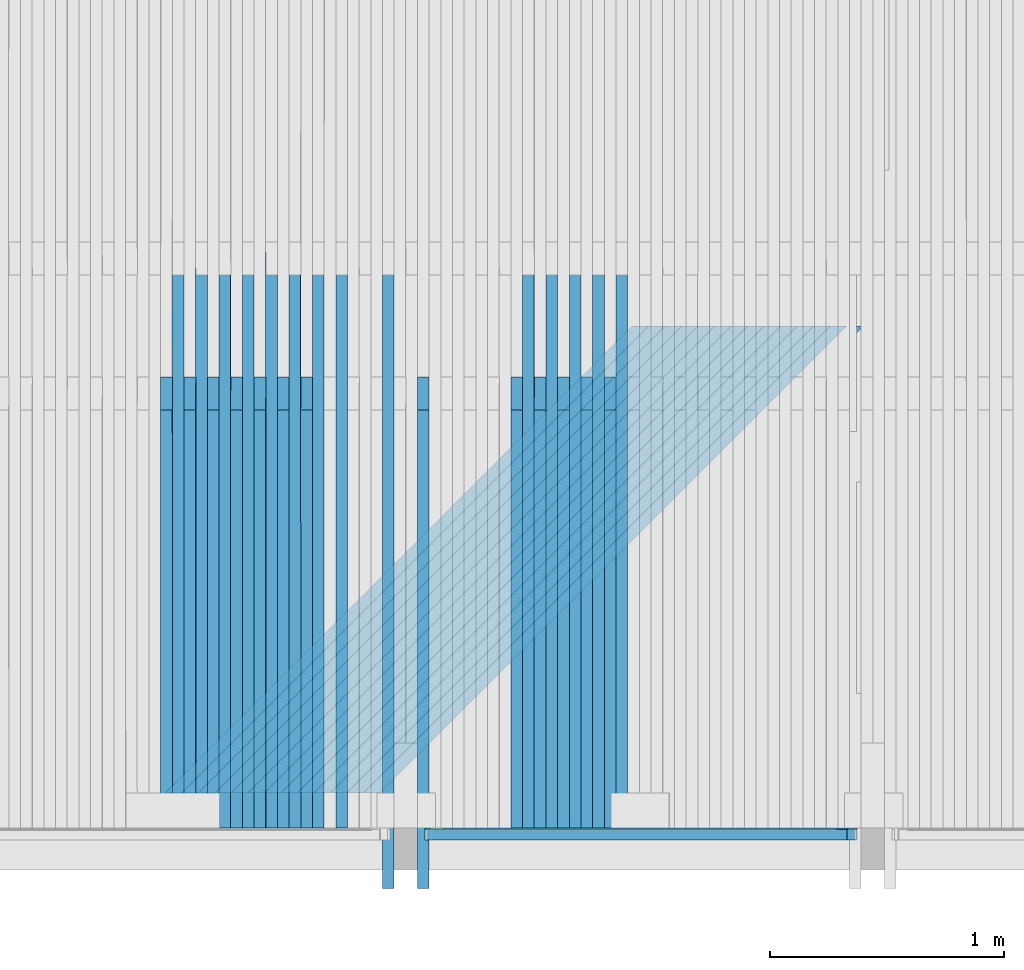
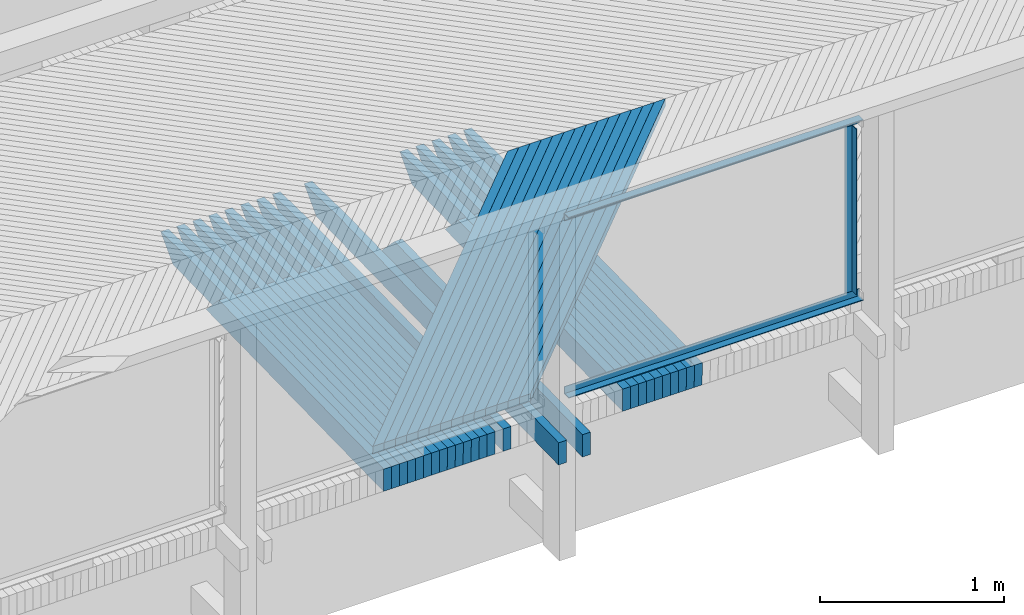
# One storey, part 23 of 65: 44 beams.
"""IFC2X3 building model written with IfcOpenShell, lengths in millimetres."""

from ifc_helpers import new_model, si_unit, frame, origin_with_axes, place, context, subcontext, project, spatial, faceted_brep, material, type_object, element, save


model = new_model("IFC2X3")

# Units and contexts
model_context = context("Model", 3, precision=1e-05, world=origin_with_axes())
body_context = subcontext(model_context, "Body", "Model", "MODEL_VIEW")
ifc_project = project(units=[si_unit("LENGTHUNIT", "METRE", prefix="MILLI"), si_unit("AREAUNIT", "SQUARE_METRE"), si_unit("VOLUMEUNIT", "CUBIC_METRE"), si_unit("MASSUNIT", "GRAM", prefix="KILO"), si_unit("TIMEUNIT", "SECOND"), si_unit("PLANEANGLEUNIT", "RADIAN"), si_unit("SOLIDANGLEUNIT", "STERADIAN"), si_unit("THERMODYNAMICTEMPERATUREUNIT", "DEGREE_CELSIUS"), si_unit("LUMINOUSINTENSITYUNIT", "LUMEN")], contexts=[model_context])

# Site, building, storey
site_placement = place(None, origin_with_axes())
site = spatial("IfcSite", under=ifc_project, at=site_placement, Name="Undefined", CompositionType="ELEMENT")
building_placement = place(site_placement, origin_with_axes())
building = spatial("IfcBuilding", under=site, at=building_placement, Name="Undefined", CompositionType="ELEMENT")
storey_placement = place(building_placement, origin_with_axes())
storey = spatial("IfcBuildingStorey", under=building, at=storey_placement, Name="Undefined", CompositionType="ELEMENT", Elevation=0.0)

# Beams
ifc_material_1 = material(Name="STEEL/S235JR")
beam_type_1 = type_object("IfcBeamType", Name="L50*5", PredefinedType="NOTDEFINED")
beam_1_placement = place(storey_placement, frame((7867.50249484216, 20190.01, 4416.23226331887), z_axis=(0.0, -1.0, 0.0), x_axis=(0.0, 0.0, -1.0)))
element("IfcBeam", 1, at=beam_1_placement, inside=storey, type_object=beam_type_1, material=ifc_material_1, Name="BEAM", ObjectType="L50*5", context=body_context, shape_type="Brep", body=[
    faceted_brep([(0.0, 25.0, -25.0), (0.0, 25.0, 25.0), (1100.00065383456, 25.0, 25.0), (1100.00065383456, 25.0, -25.0), (0.0, 20.0, 25.0), (1100.00065383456, 20.0, 25.0), (0.0, 20.0, -20.0), (1100.00065383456, 20.0, -20.0), (0.0, -25.0, -20.0), (1100.00065383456, -25.0, -20.0), (0.0, -25.0, -25.0), (1100.00065383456, -25.0, -25.0)], [[[0, 1, 2, 3]], [[1, 4, 5, 2]], [[4, 6, 7, 5]], [[6, 8, 9, 7]], [[8, 10, 11, 9]], [[10, 0, 3, 11]], [[5, 7, 9, 11, 3, 2]], [[10, 8, 6, 4, 1, 0]]]),
])
for number, where, z_axis, x_axis, name in (
    (2, (7931.95617713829, 20190.0099999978, 3291.29701897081), (0.0, -1.0, 0.0), (-0.999998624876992, 0.0, -0.00165838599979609), "BEAM"),
    (3, (6083.03750041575, 20190.0100000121, 4438.23148841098), (0.0, -1.0, 0.0), (0.999998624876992, 0.0, 0.00165838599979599), "BEAM"),
):
    element("IfcBeam", number, at=place(storey_placement, frame(where, z_axis=z_axis, x_axis=x_axis)), inside=storey, type_object=beam_type_1, material=ifc_material_1, Name=name, ObjectType="L50*5", context=body_context, shape_type="Brep", body=[
        faceted_brep([(0.0, 25.0, -25.0), (0.0, 25.0, 25.0), (1849.00413861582, 24.9999999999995, 25.0), (1849.00413861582, 24.9999999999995, -25.0), (0.0, 20.0, 25.0), (1849.00413861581, 20.0, 25.0), (0.0, 20.0, -20.0), (1849.00413861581, 20.0, -20.0), (0.0, -25.0, -20.0), (1849.00413861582, -25.0, -20.0), (0.0, -25.0, -25.0), (1849.00413861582, -25.0, -25.0)], [[[0, 1, 2, 3]], [[1, 4, 5, 2]], [[4, 6, 7, 5]], [[6, 8, 9, 7]], [[8, 10, 11, 9]], [[10, 0, 3, 11]], [[5, 7, 9, 11, 3, 2]], [[10, 8, 6, 4, 1, 0]]]),
    ])
ifc_material_2 = material(Name="TIMBER/Timber_Undefined")
beam_type_2 = type_object("IfcBeamType", Name="50*50", PredefinedType="NOTDEFINED")
for number, where, z_axis, x_axis, name in (
    (4, (7923.63385700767, 22364.5001003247, 3236.11721724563), (0.70711609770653, -0.706981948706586, -0.0127807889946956), (-0.707094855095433, -0.706948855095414, -0.0154978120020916), "BEAM"),
    (5, (7852.9096247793, 22364.5001003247, 3236.10409357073), (0.707117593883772, -0.706981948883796, -0.0126977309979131), (-0.707093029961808, -0.706948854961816, -0.0155808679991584), "BEAM"),
    (6, (7782.18539458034, 22364.5001003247, 3236.082662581), (0.707119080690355, -0.706981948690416, -0.0126146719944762), (-0.707091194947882, -0.706948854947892, -0.0156639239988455), "BEAM"),
    (7, (7711.46116738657, 22364.5001003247, 3236.0529242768), (0.707120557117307, -0.706981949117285, -0.012531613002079), (-0.707089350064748, -0.706948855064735, -0.0157469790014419), "BEAM"),
    (8, (7640.73694417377, 22364.5001003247, 3236.01487865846), (0.707122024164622, -0.706981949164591, -0.0124485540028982), (-0.707087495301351, -0.706948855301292, -0.0158300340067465), "BEAM"),
    (9, (7570.01272591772, 22364.5001003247, 3235.96852572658), (0.707123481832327, -0.706981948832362, -0.0123654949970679), (-0.70708563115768, -0.706948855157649, -0.0159130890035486), "BEAM"),
    (10, (7499.28851359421, 22364.5001003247, 3235.91386548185), (0.707124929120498, -0.706981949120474, -0.012282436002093), (-0.707083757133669, -0.706948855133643, -0.015996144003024), "BEAM"),
    (11, (7428.56430817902, 22364.5001003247, 3235.85089792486), (0.707126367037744, -0.706981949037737, -0.0121993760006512), (-0.707081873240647, -0.706948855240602, -0.0160791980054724), "BEAM"),
    (12, (7357.84011064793, 22364.5001003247, 3235.77962305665), (0.707127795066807, -0.706981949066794, -0.0121163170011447), (-0.70707997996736, -0.706948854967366, -0.0161622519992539), "BEAM"),
    (13, (7287.11592197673, 22364.5001003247, 3235.70004087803), (0.707129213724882, -0.706981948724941, -0.0120332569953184), (-0.707078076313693, -0.706948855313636, -0.0162453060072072), "BEAM"),
    (14, (7216.39174314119, 22364.5001003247, 3235.61215139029), (0.707130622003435, -0.706981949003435, -0.0119501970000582), (-0.707076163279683, -0.706948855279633, -0.0163283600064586), "BEAM"),
    (15, (7145.6675751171, 22364.5001003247, 3235.51595459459), (0.70713202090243, -0.706981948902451, -0.0118671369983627), (-0.707074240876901, -0.706948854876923, -0.0164114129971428), "BEAM"),
    (16, (7074.94341888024, 22364.5001003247, 3235.4114504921), (0.707133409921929, -0.706981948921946, -0.0117840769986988), (-0.707072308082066, -0.706948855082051, -0.0164944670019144), "BEAM"),
    (17, (7004.2192754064, 22364.5001003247, 3235.29863908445), (0.707134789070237, -0.706981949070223, -0.0117010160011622), (-0.707070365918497, -0.706948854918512, -0.0165775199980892), "BEAM"),
):
    element("IfcBeam", number, at=place(storey_placement, frame(where, z_axis=z_axis, x_axis=x_axis)), inside=storey, type_object=beam_type_2, material=ifc_material_2, Name=name, ObjectType="50*50", context=body_context, shape_type="Brep", body=[
        faceted_brep([(24.8942457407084, 25.0000000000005, -25.0000000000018), (-25.0086637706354, 24.9999999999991, 25.0), (2804.3406783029, 25.0, 25.0000000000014), (2854.34301907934, 24.9999999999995, -25.0), (-26.4222658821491, -25.0000000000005, 25.0), (2802.92643296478, -25.0, 25.0000000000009), (23.4806436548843, -24.9999999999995, -25.0000000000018), (2852.92877373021, -25.0000000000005, -24.9999999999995)], [[[0, 1, 2, 3]], [[1, 4, 5, 2]], [[4, 6, 7, 5]], [[6, 0, 3, 7]], [[5, 7, 3, 2]], [[6, 4, 1, 0]]]),
    ])
beam_type_3 = type_object("IfcBeamType", Name="150*50", PredefinedType="NOTDEFINED")
beam_2_placement = place(storey_placement, frame((6875.55134106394, 20216.5046076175, 3092.09976390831), z_axis=(-0.00194896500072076, -0.0199960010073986, 0.999798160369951), x_axis=(-3.89800000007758e-05, 0.999800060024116, 0.0199959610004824)))
element("IfcBeam", 18, at=beam_2_placement, inside=storey, type_object=beam_type_3, material=ifc_material_2, Name="BEAM", ObjectType="150*50", context=body_context, shape_type="Brep", body=[
    faceted_brep([(-1.6778358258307e-07, -24.9999999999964, -74.9999999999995), (1.67790858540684e-07, -24.9999999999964, 75.0000000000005), (1.67790858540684e-07, 25.0000000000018, 74.9999999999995), (-1.6778358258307e-07, 25.0000000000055, -75.0), (1928.42646353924, -25.0, -75.0000000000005), (1789.96936433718, -25.0000000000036, 74.9999999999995), (1789.96936408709, 24.9999999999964, 75.0), (1928.42646328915, 24.9999999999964, -75.0)], [[[0, 1, 2, 3]], [[1, 0, 4, 5]], [[2, 1, 5, 6]], [[3, 2, 6, 7]], [[0, 3, 7, 4]], [[7, 6, 5, 4]]]),
])
beam_3_placement = place(storey_placement, frame((6925.57129448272, 20216.5046076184, 3092.18896139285), z_axis=(-0.0017828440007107, -0.0199960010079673, 0.999798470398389), x_axis=(-3.56580000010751e-05, 0.999800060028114, 0.0199959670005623)))
element("IfcBeam", 19, at=beam_3_placement, inside=storey, type_object=beam_type_3, material=ifc_material_2, Name="BEAM", ObjectType="150*50", context=body_context, shape_type="Brep", body=[
    faceted_brep([(-1.6778358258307e-07, -24.9999999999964, -74.9999999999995), (1.67790858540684e-07, -24.9999999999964, 75.0000000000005), (1.67790858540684e-07, 25.0000000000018, 74.9999999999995), (-1.6778358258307e-07, 25.0000000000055, -75.0), (2375.00494422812, 25.0000000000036, -75.0), (2375.00494447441, -24.9999999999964, -74.9999999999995), (2510.59248714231, -24.9999999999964, 60.5875430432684), (2150.42514405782, -24.9999999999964, 75.0000000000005), (2150.42515052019, 25.0000000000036, 74.9999999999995), (2510.59248715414, 25.0000000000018, 60.5875433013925)], [[[0, 1, 2, 3]], [[0, 3, 4, 5]], [[1, 0, 5, 6, 7]], [[2, 1, 7, 8]], [[4, 3, 2, 8, 9]], [[5, 4, 9, 6]], [[6, 9, 8, 7]]]),
])
beam_4_placement = place(storey_placement, frame((6775.53149770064, 20216.5046076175, 3091.90462133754), z_axis=(-0.0021150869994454, -0.0199960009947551, 0.999797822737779), x_axis=(-4.23030000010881e-05, 0.999800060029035, 0.0199959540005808)))
element("IfcBeam", 20, at=beam_4_placement, inside=storey, type_object=beam_type_3, material=ifc_material_2, Name="BEAM", ObjectType="150*50", context=body_context, shape_type="Brep", body=[
    faceted_brep([(-1.6778358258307e-07, -24.9999999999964, -74.9999999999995), (1.67790858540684e-07, -24.9999999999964, 75.0000000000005), (1.67790858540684e-07, 25.0000000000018, 74.9999999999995), (-1.6778358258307e-07, 25.0000000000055, -75.0), (1928.42646353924, -25.0, -75.0000000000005), (1789.96936433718, -25.0000000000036, 74.9999999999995), (1789.96936408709, 24.9999999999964, 75.0), (1928.42646328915, 24.9999999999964, -75.0)], [[[0, 1, 2, 3]], [[1, 0, 4, 5]], [[2, 1, 5, 6]], [[3, 2, 6, 7]], [[0, 3, 7, 4]], [[7, 6, 5, 4]]]),
])
beam_5_placement = place(storey_placement, frame((6825.55143560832, 20216.5046076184, 3092.0021299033), z_axis=(-0.00194896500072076, -0.0199960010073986, 0.999798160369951), x_axis=(-3.89800000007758e-05, 0.999800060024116, 0.0199959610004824)))
element("IfcBeam", 21, at=beam_5_placement, inside=storey, type_object=beam_type_3, material=ifc_material_2, Name="BEAM", ObjectType="150*50", context=body_context, shape_type="Brep", body=[
    faceted_brep([(-1.6778358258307e-07, -24.9999999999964, -74.9999999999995), (1.67790858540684e-07, -24.9999999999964, 75.0000000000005), (1.67790858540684e-07, 25.0000000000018, 74.9999999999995), (-1.6778358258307e-07, 25.0000000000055, -75.0), (2375.00494422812, 25.0000000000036, -75.0), (2375.00494447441, -24.9999999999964, -74.9999999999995), (2510.59248714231, -24.9999999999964, 60.5875430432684), (2150.42514405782, -24.9999999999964, 75.0000000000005), (2150.42515052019, 25.0000000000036, 74.9999999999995), (2510.59248715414, 25.0000000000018, 60.5875433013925)], [[[0, 1, 2, 3]], [[0, 3, 4, 5]], [[1, 0, 5, 6, 7]], [[2, 1, 7, 8]], [[4, 3, 2, 8, 9]], [[5, 4, 9, 6]], [[6, 9, 8, 7]]]),
])
beam_6_placement = place(storey_placement, frame((6675.51168814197, 20216.5046076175, 3091.6928599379), z_axis=(-0.00228120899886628, -0.019996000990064, 0.999797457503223), x_axis=(-4.5625000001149e-05, 0.99980006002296, 0.0199959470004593)))
element("IfcBeam", 22, at=beam_6_placement, inside=storey, type_object=beam_type_3, material=ifc_material_2, Name="BEAM", ObjectType="150*50", context=body_context, shape_type="Brep", body=[
    faceted_brep([(-1.6778358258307e-07, -24.9999999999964, -74.9999999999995), (1.67790858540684e-07, -24.9999999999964, 75.0000000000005), (1.67790858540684e-07, 25.0000000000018, 74.9999999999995), (-1.6778358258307e-07, 25.0000000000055, -75.0), (1928.42646353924, -25.0, -75.0000000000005), (1789.96936433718, -25.0000000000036, 74.9999999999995), (1789.96936408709, 24.9999999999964, 75.0), (1928.42646328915, 24.9999999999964, -75.0)], [[[0, 1, 2, 3]], [[1, 0, 4, 5]], [[2, 1, 5, 6]], [[3, 2, 6, 7]], [[0, 3, 7, 4]], [[7, 6, 5, 4]]]),
])
beam_7_placement = place(storey_placement, frame((6725.53160915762, 20216.5046076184, 3091.79867958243), z_axis=(-0.0021150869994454, -0.0199960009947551, 0.999797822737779), x_axis=(-4.23030000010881e-05, 0.999800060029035, 0.0199959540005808)))
element("IfcBeam", 23, at=beam_7_placement, inside=storey, type_object=beam_type_3, material=ifc_material_2, Name="BEAM", ObjectType="150*50", context=body_context, shape_type="Brep", body=[
    faceted_brep([(-1.6778358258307e-07, -24.9999999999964, -74.9999999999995), (1.67790858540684e-07, -24.9999999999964, 75.0000000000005), (1.67790858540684e-07, 25.0000000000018, 74.9999999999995), (-1.6778358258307e-07, 25.0000000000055, -75.0), (2375.00494422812, 25.0000000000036, -75.0), (2375.00494447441, -24.9999999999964, -74.9999999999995), (2510.59248714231, -24.9999999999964, 60.5875430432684), (2150.42514405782, -24.9999999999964, 75.0000000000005), (2150.42515052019, 25.0000000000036, 74.9999999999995), (2510.59248715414, 25.0000000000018, 60.5875433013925)], [[[0, 1, 2, 3]], [[0, 3, 4, 5]], [[1, 0, 5, 6, 7]], [[2, 1, 7, 8]], [[4, 3, 2, 8, 9]], [[5, 4, 9, 6]], [[6, 9, 8, 7]]]),
])
beam_8_placement = place(storey_placement, frame((6575.49191514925, 20216.5046076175, 3091.46447971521), z_axis=(-0.00244733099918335, -0.0199960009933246, 0.999797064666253), x_axis=(-4.89470000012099e-05, 0.999800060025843, 0.0199959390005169)))
element("IfcBeam", 24, at=beam_8_placement, inside=storey, type_object=beam_type_3, material=ifc_material_2, Name="BEAM", ObjectType="150*50", context=body_context, shape_type="Brep", body=[
    faceted_brep([(-1.6778358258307e-07, -24.9999999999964, -74.9999999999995), (1.67790858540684e-07, -24.9999999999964, 75.0000000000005), (1.67790858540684e-07, 25.0000000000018, 74.9999999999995), (-1.6778358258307e-07, 25.0000000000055, -75.0), (1928.42646353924, -25.0, -75.0000000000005), (1789.96936433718, -25.0000000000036, 74.9999999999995), (1789.96936408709, 24.9999999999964, 75.0), (1928.42646328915, 24.9999999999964, -75.0)], [[[0, 1, 2, 3]], [[1, 0, 4, 5]], [[2, 1, 5, 6]], [[3, 2, 6, 7]], [[0, 3, 7, 4]], [[7, 6, 5, 4]]]),
])
beam_9_placement = place(storey_placement, frame((6625.51181789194, 20216.5046076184, 3091.57861043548), z_axis=(-0.00228120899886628, -0.019996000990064, 0.999797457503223), x_axis=(-4.5625000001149e-05, 0.99980006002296, 0.0199959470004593)))
element("IfcBeam", 25, at=beam_9_placement, inside=storey, type_object=beam_type_3, material=ifc_material_2, Name="BEAM", ObjectType="150*50", context=body_context, shape_type="Brep", body=[
    faceted_brep([(-1.6778358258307e-07, -24.9999999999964, -74.9999999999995), (1.67790858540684e-07, -24.9999999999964, 75.0000000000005), (1.67790858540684e-07, 25.0000000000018, 74.9999999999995), (-1.6778358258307e-07, 25.0000000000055, -75.0), (2375.00494422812, 25.0000000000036, -75.0), (2375.00494447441, -24.9999999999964, -74.9999999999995), (2510.59248714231, -24.9999999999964, 60.5875430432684), (2150.42514405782, -24.9999999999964, 75.0000000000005), (2150.42515052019, 25.0000000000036, 74.9999999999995), (2510.59248715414, 25.0000000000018, 60.5875433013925)], [[[0, 1, 2, 3]], [[0, 3, 4, 5]], [[1, 0, 5, 6, 7]], [[2, 1, 7, 8]], [[4, 3, 2, 8, 9]], [[5, 4, 9, 6]], [[6, 9, 8, 7]]]),
])
beam_10_placement = place(storey_placement, frame((6475.47218148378, 20216.5046076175, 3091.21948067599), z_axis=(-0.00261345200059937, -0.0199960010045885, 0.999796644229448), x_axis=(-5.22700000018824e-05, 0.999800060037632, 0.0199959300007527)))
element("IfcBeam", 26, at=beam_10_placement, inside=storey, type_object=beam_type_3, material=ifc_material_2, Name="BEAM", ObjectType="150*50", context=body_context, shape_type="Brep", body=[
    faceted_brep([(-1.6778358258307e-07, -24.9999999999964, -74.9999999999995), (1.67790858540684e-07, -24.9999999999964, 75.0000000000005), (1.67790858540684e-07, 25.0000000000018, 74.9999999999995), (-1.6778358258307e-07, 25.0000000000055, -75.0), (1928.42646353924, -25.0, -75.0000000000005), (1789.96936433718, -25.0000000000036, 74.9999999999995), (1789.96936408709, 24.9999999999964, 75.0), (1928.42646328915, 24.9999999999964, -75.0)], [[[0, 1, 2, 3]], [[1, 0, 4, 5]], [[2, 1, 5, 6]], [[3, 2, 6, 7]], [[0, 3, 7, 4]], [[7, 6, 5, 4]]]),
])
for number, where, z_axis, x_axis, name in (
    (27, (6525.49206457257, 20216.5046076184, 3091.34192246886), (-0.00244733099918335, -0.0199960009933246, 0.999797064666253), (-4.89470000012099e-05, 0.999800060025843, 0.0199959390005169), "BEAM"),
    (28, (5725.9357353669, 20216.5046076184, 3088.8504411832), (-0.00377630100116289, -0.0199960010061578, 0.999792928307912), (-7.55270000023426e-05, 0.999800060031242, 0.0199958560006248), "BEAM"),
):
    element("IfcBeam", number, at=place(storey_placement, frame(where, z_axis=z_axis, x_axis=x_axis)), inside=storey, type_object=beam_type_3, material=ifc_material_2, Name=name, ObjectType="150*50", context=body_context, shape_type="Brep", body=[
        faceted_brep([(-1.6778358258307e-07, -24.9999999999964, -74.9999999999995), (1.67790858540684e-07, -24.9999999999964, 75.0000000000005), (1.67790858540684e-07, 25.0000000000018, 74.9999999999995), (-1.6778358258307e-07, 25.0000000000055, -75.0), (2375.00494422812, 25.0000000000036, -75.0), (2375.00494447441, -24.9999999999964, -74.9999999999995), (2510.59248714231, -24.9999999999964, 60.5875430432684), (2150.42514405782, -24.9999999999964, 75.0000000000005), (2150.42515052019, 25.0000000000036, 74.9999999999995), (2510.59248715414, 25.0000000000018, 60.5875433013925)], [[[0, 1, 2, 3]], [[0, 3, 4, 5]], [[1, 0, 5, 6, 7]], [[2, 1, 7, 8]], [[4, 3, 2, 8, 9]], [[5, 4, 9, 6]], [[6, 9, 8, 7]]]),
    ])
beam_11_placement = place(storey_placement, frame((5575.89680370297, 20216.5046076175, 3088.2670426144), z_axis=(-0.00410854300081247, -0.0199960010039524, 0.999791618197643), x_axis=(-8.21720000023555e-05, 0.99980006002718, 0.0199958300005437)))
element("IfcBeam", 29, at=beam_11_placement, inside=storey, type_object=beam_type_3, material=ifc_material_2, Name="BEAM", ObjectType="150*50", context=body_context, shape_type="Brep", body=[
    faceted_brep([(-1.6778358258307e-07, -24.9999999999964, -74.9999999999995), (1.67790858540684e-07, -24.9999999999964, 75.0000000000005), (1.67790858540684e-07, 25.0000000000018, 74.9999999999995), (-1.6778358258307e-07, 25.0000000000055, -75.0), (1928.42646353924, -25.0, -75.0000000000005), (1789.96936433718, -25.0000000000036, 74.9999999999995), (1789.96936408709, 24.9999999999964, 75.0), (1928.42646328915, 24.9999999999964, -75.0)], [[[0, 1, 2, 3]], [[1, 0, 4, 5]], [[2, 1, 5, 6]], [[3, 2, 6, 7]], [[0, 3, 7, 4]], [[7, 6, 5, 4]]]),
])
beam_12_placement = place(storey_placement, frame((5625.916447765, 20216.5046076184, 3088.46428388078), z_axis=(-0.00394242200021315, -0.0199960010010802, 0.999792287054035), x_axis=(-7.88490000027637e-05, 0.999800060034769, 0.0199958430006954)))
element("IfcBeam", 30, at=beam_12_placement, inside=storey, type_object=beam_type_3, material=ifc_material_2, Name="BEAM", ObjectType="150*50", context=body_context, shape_type="Brep", body=[
    faceted_brep([(-1.6778358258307e-07, -24.9999999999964, -74.9999999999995), (1.67790858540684e-07, -24.9999999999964, 75.0000000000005), (1.67790858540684e-07, 25.0000000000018, 74.9999999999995), (-1.6778358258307e-07, 25.0000000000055, -75.0), (2375.00494422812, 25.0000000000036, -75.0), (2375.00494447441, -24.9999999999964, -74.9999999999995), (2510.59248714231, -24.9999999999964, 60.5875430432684), (2150.42514405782, -24.9999999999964, 75.0000000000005), (2150.42515052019, 25.0000000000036, 74.9999999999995), (2510.59248715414, 25.0000000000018, 60.5875433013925)], [[[0, 1, 2, 3]], [[0, 3, 4, 5]], [[1, 0, 5, 6, 7]], [[2, 1, 7, 8]], [[4, 3, 2, 8, 9]], [[5, 4, 9, 6]], [[6, 9, 8, 7]]]),
])
beam_13_placement = place(storey_placement, frame((5475.87761510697, 20216.5046076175, 3087.85595554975), z_axis=(-0.00427466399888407, -0.0199960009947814, 0.999790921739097), x_axis=(-8.54940000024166e-05, 0.999800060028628, 0.0199958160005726)))
element("IfcBeam", 31, at=beam_13_placement, inside=storey, type_object=beam_type_3, material=ifc_material_2, Name="BEAM", ObjectType="150*50", context=body_context, shape_type="Brep", body=[
    faceted_brep([(-1.6778358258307e-07, -24.9999999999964, -74.9999999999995), (1.67790858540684e-07, -24.9999999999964, 75.0000000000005), (1.67790858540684e-07, 25.0000000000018, 74.9999999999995), (-1.6778358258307e-07, 25.0000000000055, -75.0), (1928.42646353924, -25.0, -75.0000000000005), (1789.96936433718, -25.0000000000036, 74.9999999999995), (1789.96936408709, 24.9999999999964, 75.0), (1928.42646328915, 24.9999999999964, -75.0)], [[[0, 1, 2, 3]], [[1, 0, 4, 5]], [[2, 1, 5, 6]], [[3, 2, 6, 7]], [[0, 3, 7, 4]], [[7, 6, 5, 4]]]),
])
beam_14_placement = place(storey_placement, frame((5525.89722570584, 20216.5046076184, 3088.06150784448), z_axis=(-0.00410854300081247, -0.0199960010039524, 0.999791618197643), x_axis=(-8.21720000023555e-05, 0.99980006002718, 0.0199958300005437)))
element("IfcBeam", 32, at=beam_14_placement, inside=storey, type_object=beam_type_3, material=ifc_material_2, Name="BEAM", ObjectType="150*50", context=body_context, shape_type="Brep", body=[
    faceted_brep([(-1.6778358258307e-07, -24.9999999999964, -74.9999999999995), (1.67790858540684e-07, -24.9999999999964, 75.0000000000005), (1.67790858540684e-07, 25.0000000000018, 74.9999999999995), (-1.6778358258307e-07, 25.0000000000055, -75.0), (2375.00494422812, 25.0000000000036, -75.0), (2375.00494447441, -24.9999999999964, -74.9999999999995), (2510.59248714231, -24.9999999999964, 60.5875430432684), (2150.42514405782, -24.9999999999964, 75.0000000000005), (2150.42515052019, 25.0000000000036, 74.9999999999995), (2510.59248715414, 25.0000000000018, 60.5875433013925)], [[[0, 1, 2, 3]], [[0, 3, 4, 5]], [[1, 0, 5, 6, 7]], [[2, 1, 7, 8]], [[4, 3, 2, 8, 9]], [[5, 4, 9, 6]], [[6, 9, 8, 7]]]),
])
beam_15_placement = place(storey_placement, frame((5375.85849619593, 20216.5046076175, 3087.42824976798), z_axis=(-0.0044407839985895, -0.0199960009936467, 0.999790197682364), x_axis=(-8.88170000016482e-05, 0.999800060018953, 0.0199958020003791)))
element("IfcBeam", 33, at=beam_15_placement, inside=storey, type_object=beam_type_3, material=ifc_material_2, Name="BEAM", ObjectType="150*50", context=body_context, shape_type="Brep", body=[
    faceted_brep([(-1.6778358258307e-07, -24.9999999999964, -74.9999999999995), (1.67790858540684e-07, -24.9999999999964, 75.0000000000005), (1.67790858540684e-07, 25.0000000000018, 74.9999999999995), (-1.6778358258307e-07, 25.0000000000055, -75.0), (1928.42646353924, -25.0, -75.0000000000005), (1789.96936433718, -25.0000000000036, 74.9999999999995), (1789.96936408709, 24.9999999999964, 75.0), (1928.42646328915, 24.9999999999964, -75.0)], [[[0, 1, 2, 3]], [[1, 0, 4, 5]], [[2, 1, 5, 6]], [[3, 2, 6, 7]], [[0, 3, 7, 4]], [[7, 6, 5, 4]]]),
])
beam_16_placement = place(storey_placement, frame((5425.87807195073, 20216.5046076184, 3087.6421130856), z_axis=(-0.00427466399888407, -0.0199960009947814, 0.999790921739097), x_axis=(-8.54940000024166e-05, 0.999800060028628, 0.0199958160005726)))
element("IfcBeam", 34, at=beam_16_placement, inside=storey, type_object=beam_type_3, material=ifc_material_2, Name="BEAM", ObjectType="150*50", context=body_context, shape_type="Brep", body=[
    faceted_brep([(-1.6778358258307e-07, -24.9999999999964, -74.9999999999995), (1.67790858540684e-07, -24.9999999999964, 75.0000000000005), (1.67790858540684e-07, 25.0000000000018, 74.9999999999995), (-1.6778358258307e-07, 25.0000000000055, -75.0), (2375.00494422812, 25.0000000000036, -75.0), (2375.00494447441, -24.9999999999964, -74.9999999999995), (2510.59248714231, -24.9999999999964, 60.5875430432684), (2150.42514405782, -24.9999999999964, 75.0000000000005), (2150.42515052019, 25.0000000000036, 74.9999999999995), (2510.59248715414, 25.0000000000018, 60.5875433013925)], [[[0, 1, 2, 3]], [[0, 3, 4, 5]], [[1, 0, 5, 6, 7]], [[2, 1, 7, 8]], [[4, 3, 2, 8, 9]], [[5, 4, 9, 6]], [[6, 9, 8, 7]]]),
])
beam_17_placement = place(storey_placement, frame((5275.83944973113, 20216.5046076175, 3086.98392528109), z_axis=(-0.00460690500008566, -0.0199960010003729, 0.999789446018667), x_axis=(-9.21390000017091e-05, 0.999800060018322, 0.0199957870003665)))
element("IfcBeam", 35, at=beam_17_placement, inside=storey, type_object=beam_type_3, material=ifc_material_2, Name="BEAM", ObjectType="150*50", context=body_context, shape_type="Brep", body=[
    faceted_brep([(-1.6778358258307e-07, -24.9999999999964, -74.9999999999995), (1.67790858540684e-07, -24.9999999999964, 75.0000000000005), (1.67790858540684e-07, 25.0000000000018, 74.9999999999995), (-1.6778358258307e-07, 25.0000000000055, -75.0), (1928.42646353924, -25.0, -75.0000000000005), (1789.96936433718, -25.0000000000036, 74.9999999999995), (1789.96936408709, 24.9999999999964, 75.0), (1928.42646328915, 24.9999999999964, -75.0)], [[[0, 1, 2, 3]], [[1, 0, 4, 5]], [[2, 1, 5, 6]], [[3, 2, 6, 7]], [[0, 3, 7, 4]], [[7, 6, 5, 4]]]),
])
beam_18_placement = place(storey_placement, frame((5325.85898926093, 20216.5046076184, 3087.20609961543), z_axis=(-0.0044407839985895, -0.0199960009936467, 0.999790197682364), x_axis=(-8.88170000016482e-05, 0.999800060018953, 0.0199958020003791)))
element("IfcBeam", 36, at=beam_18_placement, inside=storey, type_object=beam_type_3, material=ifc_material_2, Name="BEAM", ObjectType="150*50", context=body_context, shape_type="Brep", body=[
    faceted_brep([(-1.6778358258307e-07, -24.9999999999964, -74.9999999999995), (1.67790858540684e-07, -24.9999999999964, 75.0000000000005), (1.67790858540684e-07, 25.0000000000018, 74.9999999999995), (-1.6778358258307e-07, 25.0000000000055, -75.0), (2375.00494422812, 25.0000000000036, -75.0), (2375.00494447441, -24.9999999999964, -74.9999999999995), (2510.59248714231, -24.9999999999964, 60.5875430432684), (2150.42514405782, -24.9999999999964, 75.0000000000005), (2150.42515052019, 25.0000000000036, 74.9999999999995), (2510.59248715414, 25.0000000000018, 60.5875433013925)], [[[0, 1, 2, 3]], [[0, 3, 4, 5]], [[1, 0, 5, 6, 7]], [[2, 1, 7, 8]], [[4, 3, 2, 8, 9]], [[5, 4, 9, 6]], [[6, 9, 8, 7]]]),
])
beam_19_placement = place(storey_placement, frame((5175.82047847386, 20216.5046076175, 3086.52298210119), z_axis=(-0.00477302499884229, -0.0199960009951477, 0.999788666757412), x_axis=(-9.54610000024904e-05, 0.999800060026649, 0.019995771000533)))
element("IfcBeam", 37, at=beam_19_placement, inside=storey, type_object=beam_type_3, material=ifc_material_2, Name="BEAM", ObjectType="150*50", context=body_context, shape_type="Brep", body=[
    faceted_brep([(-1.6778358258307e-07, -24.9999999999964, -74.9999999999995), (1.67790858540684e-07, -24.9999999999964, 75.0000000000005), (1.67790858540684e-07, 25.0000000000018, 74.9999999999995), (-1.6778358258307e-07, 25.0000000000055, -75.0), (1928.42646353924, -25.0, -75.0000000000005), (1789.96936433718, -25.0000000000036, 74.9999999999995), (1789.96936408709, 24.9999999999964, 75.0), (1928.42646328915, 24.9999999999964, -75.0)], [[[0, 1, 2, 3]], [[1, 0, 4, 5]], [[2, 1, 5, 6]], [[3, 2, 6, 7]], [[0, 3, 7, 4]], [[7, 6, 5, 4]]]),
])
beam_20_placement = place(storey_placement, frame((5225.83998039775, 20216.5046076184, 3086.75346744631), z_axis=(-0.00460690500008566, -0.0199960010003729, 0.999789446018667), x_axis=(-9.21390000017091e-05, 0.999800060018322, 0.0199957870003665)))
element("IfcBeam", 38, at=beam_20_placement, inside=storey, type_object=beam_type_3, material=ifc_material_2, Name="BEAM", ObjectType="150*50", context=body_context, shape_type="Brep", body=[
    faceted_brep([(-1.6778358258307e-07, -24.9999999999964, -74.9999999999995), (1.67790858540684e-07, -24.9999999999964, 75.0000000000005), (1.67790858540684e-07, 25.0000000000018, 74.9999999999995), (-1.6778358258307e-07, 25.0000000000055, -75.0), (2375.00494422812, 25.0000000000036, -75.0), (2375.00494447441, -24.9999999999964, -74.9999999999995), (2510.59248714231, -24.9999999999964, 60.5875430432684), (2150.42514405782, -24.9999999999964, 75.0000000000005), (2150.42515052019, 25.0000000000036, 74.9999999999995), (2510.59248715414, 25.0000000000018, 60.5875433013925)], [[[0, 1, 2, 3]], [[0, 3, 4, 5]], [[1, 0, 5, 6, 7]], [[2, 1, 7, 8]], [[4, 3, 2, 8, 9]], [[5, 4, 9, 6]], [[6, 9, 8, 7]]]),
])
beam_21_placement = place(storey_placement, frame((5075.8015851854, 20216.5046076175, 3086.04542024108), z_axis=(-0.004939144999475, -0.0199960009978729, 0.999787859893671), x_axis=(-9.87840000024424e-05, 0.999800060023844, 0.0199957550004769)))
element("IfcBeam", 39, at=beam_21_placement, inside=storey, type_object=beam_type_3, material=ifc_material_2, Name="BEAM", ObjectType="150*50", context=body_context, shape_type="Brep", body=[
    faceted_brep([(-1.6778358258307e-07, -24.9999999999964, -74.9999999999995), (1.67790858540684e-07, -24.9999999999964, 75.0000000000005), (1.67790858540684e-07, 25.0000000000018, 74.9999999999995), (-1.6778358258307e-07, 25.0000000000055, -75.0), (1928.42646353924, -25.0, -75.0000000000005), (1789.96936433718, -25.0000000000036, 74.9999999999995), (1789.96936408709, 24.9999999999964, 75.0), (1928.42646328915, 24.9999999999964, -75.0)], [[[0, 1, 2, 3]], [[1, 0, 4, 5]], [[2, 1, 5, 6]], [[3, 2, 6, 7]], [[0, 3, 7, 4]], [[7, 6, 5, 4]]]),
])
beam_22_placement = place(storey_placement, frame((5125.82104812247, 20216.5046076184, 3086.28421659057), z_axis=(-0.00477302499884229, -0.0199960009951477, 0.999788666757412), x_axis=(-9.54610000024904e-05, 0.999800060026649, 0.019995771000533)))
element("IfcBeam", 40, at=beam_22_placement, inside=storey, type_object=beam_type_3, material=ifc_material_2, Name="BEAM", ObjectType="150*50", context=body_context, shape_type="Brep", body=[
    faceted_brep([(-1.6778358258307e-07, -24.9999999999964, -74.9999999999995), (1.67790858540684e-07, -24.9999999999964, 75.0000000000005), (1.67790858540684e-07, 25.0000000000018, 74.9999999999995), (-1.6778358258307e-07, 25.0000000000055, -75.0), (2375.00494422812, 25.0000000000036, -75.0), (2375.00494447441, -24.9999999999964, -74.9999999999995), (2510.59248714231, -24.9999999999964, 60.5875430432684), (2150.42514405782, -24.9999999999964, 75.0000000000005), (2150.42515052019, 25.0000000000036, 74.9999999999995), (2510.59248715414, 25.0000000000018, 60.5875433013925)], [[[0, 1, 2, 3]], [[0, 3, 4, 5]], [[1, 0, 5, 6, 7]], [[2, 1, 7, 8]], [[4, 3, 2, 8, 9]], [[5, 4, 9, 6]], [[6, 9, 8, 7]]]),
])
beam_23_placement = place(storey_placement, frame((4975.78277262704, 20216.5046076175, 3085.55123971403), z_axis=(-0.00510526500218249, -0.0199960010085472, 0.999787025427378), x_axis=(-0.000102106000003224, 0.999800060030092, 0.0199957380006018)))
element("IfcBeam", 41, at=beam_23_placement, inside=storey, type_object=beam_type_3, material=ifc_material_2, Name="BEAM", ObjectType="150*50", context=body_context, shape_type="Brep", body=[
    faceted_brep([(-1.6778358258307e-07, -24.9999999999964, -74.9999999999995), (1.67790858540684e-07, -24.9999999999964, 75.0000000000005), (1.67790858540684e-07, 25.0000000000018, 74.9999999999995), (-1.6778358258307e-07, 25.0000000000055, -75.0), (1928.42646353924, -25.0, -75.0000000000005), (1789.96936433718, -25.0000000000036, 74.9999999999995), (1789.96936408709, 24.9999999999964, 75.0), (1928.42646328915, 24.9999999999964, -75.0)], [[[0, 1, 2, 3]], [[1, 0, 4, 5]], [[2, 1, 5, 6]], [[3, 2, 6, 7]], [[0, 3, 7, 4]], [[7, 6, 5, 4]]]),
])
beam_24_placement = place(storey_placement, frame((5025.80219519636, 20216.5046076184, 3085.79834706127), z_axis=(-0.004939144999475, -0.0199960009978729, 0.999787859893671), x_axis=(-9.87840000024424e-05, 0.999800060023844, 0.0199957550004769)))
element("IfcBeam", 42, at=beam_24_placement, inside=storey, type_object=beam_type_3, material=ifc_material_2, Name="BEAM", ObjectType="150*50", context=body_context, shape_type="Brep", body=[
    faceted_brep([(-1.6778358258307e-07, -24.9999999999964, -74.9999999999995), (1.67790858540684e-07, -24.9999999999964, 75.0000000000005), (1.67790858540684e-07, 25.0000000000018, 74.9999999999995), (-1.6778358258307e-07, 25.0000000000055, -75.0), (2375.00494422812, 25.0000000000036, -75.0), (2375.00494447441, -24.9999999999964, -74.9999999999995), (2510.59248714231, -24.9999999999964, 60.5875430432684), (2150.42514405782, -24.9999999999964, 75.0000000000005), (2150.42515052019, 25.0000000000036, 74.9999999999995), (2510.59248715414, 25.0000000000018, 60.5875433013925)], [[[0, 1, 2, 3]], [[0, 3, 4, 5]], [[1, 0, 5, 6, 7]], [[2, 1, 7, 8]], [[4, 3, 2, 8, 9]], [[5, 4, 9, 6]], [[6, 9, 8, 7]]]),
])
beam_25_placement = place(storey_placement, frame((6075.29628164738, 19958.5561921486, 3084.91318587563), z_axis=(-0.00327793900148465, -0.0199960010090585, 0.999794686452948), x_axis=(-6.55590000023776e-05, 0.999800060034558, 0.0199958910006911)))
element("IfcBeam", 43, at=beam_25_placement, inside=storey, type_object=beam_type_3, material=ifc_material_2, Name="BEAM", ObjectType="150*50", context=body_context, shape_type="Brep", body=[
    faceted_brep([(-1.6778358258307e-07, -24.9999999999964, -74.9999999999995), (1.67790858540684e-07, -24.9999999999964, 75.0000000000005), (1.67790858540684e-07, 25.0000000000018, 74.9999999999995), (-1.6778358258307e-07, 25.0000000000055, -75.0), (2186.42645144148, -25.0000000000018, -75.0), (2047.96935255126, -25.0000000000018, 75.0000000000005), (2047.9693678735, 24.9999999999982, 75.0), (2186.42646676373, 24.9999999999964, -74.9999999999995)], [[[0, 1, 2, 3]], [[1, 0, 4, 5]], [[2, 1, 5, 6]], [[3, 2, 6, 7]], [[0, 3, 7, 4]], [[7, 6, 5, 4]]]),
])
beam_26_placement = place(storey_placement, frame((5925.27708321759, 19958.5561921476, 3084.41294299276), z_axis=(-0.00344405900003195, -0.0199960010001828, 0.999794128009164), x_axis=(-6.88820000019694e-05, 0.99980006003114, 0.0199958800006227)))
element("IfcBeam", 44, at=beam_26_placement, inside=storey, type_object=beam_type_3, material=ifc_material_2, Name="BEAM", ObjectType="150*50", context=body_context, shape_type="Brep", body=[
    faceted_brep([(-1.6778358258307e-07, -24.9999999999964, -74.9999999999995), (1.67790858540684e-07, -24.9999999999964, 75.0000000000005), (1.67790858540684e-07, 25.0000000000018, 74.9999999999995), (-1.6778358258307e-07, 25.0000000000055, -75.0), (2633.00494750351, 24.9999999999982, -74.9999999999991), (2633.00494763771, -25.0000000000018, -74.9999999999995), (2768.59248713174, -25.0000000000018, 60.5875397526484), (2408.42506549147, -25.0000000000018, 75.0000000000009), (2408.42506824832, 24.9999999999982, 75.0000000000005), (2768.59248710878, 24.9999999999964, 60.587539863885)], [[[0, 1, 2, 3]], [[0, 3, 4, 5]], [[1, 0, 5, 6, 7]], [[2, 1, 7, 8]], [[4, 3, 2, 8, 9]], [[5, 4, 9, 6]], [[6, 9, 8, 7]]]),
])

save(model, "model.ifc")
